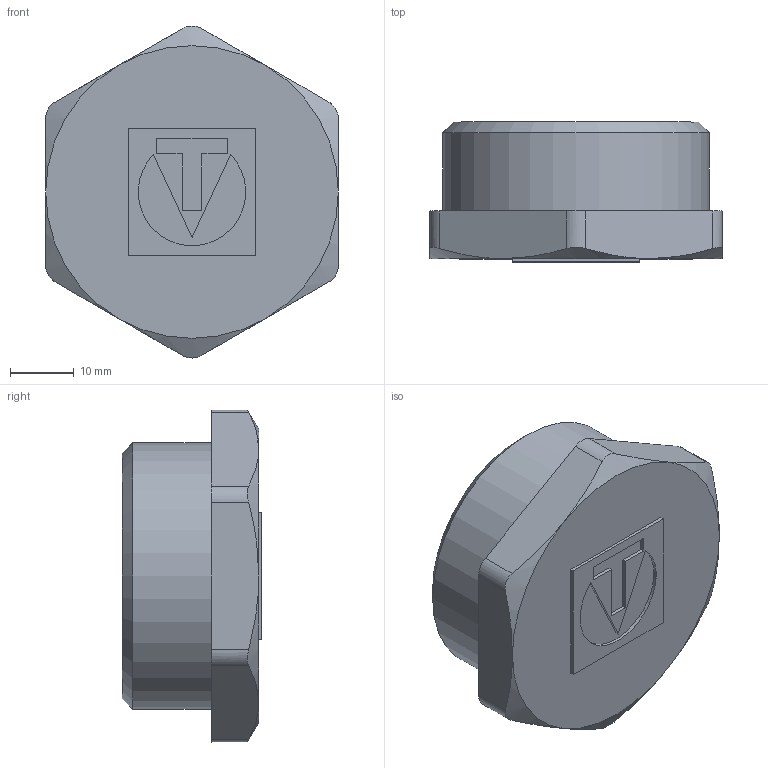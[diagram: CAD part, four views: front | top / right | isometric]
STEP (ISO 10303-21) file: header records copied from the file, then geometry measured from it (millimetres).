
FILE_DESCRIPTION(('STEP AP203'), '1');
FILE_NAME('ÂÐ.753125.006 - VTr.583.N.0007 Ïðîá. ðåçüá', '2024-07-05T13:26:25', ('Boss'), (''), 'C3D Converter', 'C3D Toolkit', '');
FILE_SCHEMA(('CONFIG_CONTROL_DESIGN'));
Length unit declared in the file: millimetre
Products named in the file (1): ВР.753125.006
Bounding box: 46 x 22 x 52.19 mm (x, y, z)
Volume: 17930.9 mm3; surface area: 8366.1 mm2
Topology: 1 solids, 1 shells, 44 faces, 103 edges, 66 vertices
Faces by surface type: plane 27, cylinder 9, cone 8
Full cylindrical faces by diameter (mm): 32 x1, 41.91 x1
Entity records: 1841 total; most frequent: CARTESIAN_POINT 833, ORIENTED_EDGE 198, DIRECTION 191, EDGE_CURVE 99, VERTEX_POINT 66, AXIS2_PLACEMENT_3D 65, LINE 61, VECTOR 61
